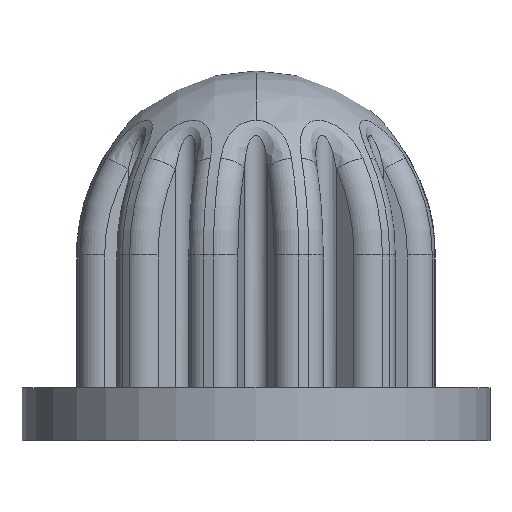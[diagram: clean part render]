
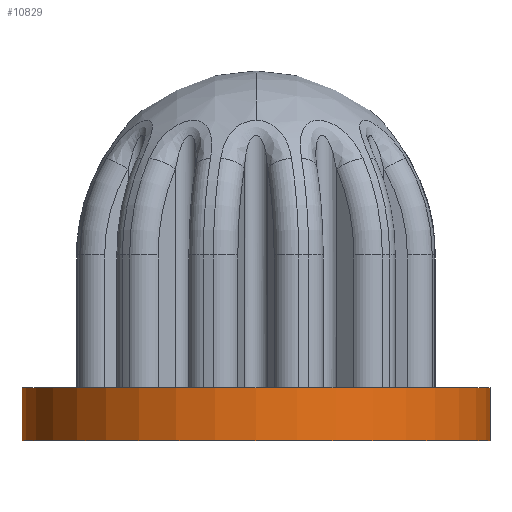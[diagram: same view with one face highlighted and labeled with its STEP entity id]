
A CAD part, front view. The second image highlights one B-rep face of the part: STEP entity #10829.
In plain terms, the highlighted cylindrical face has radius 2.908 mm (diameter 5.817 mm), a partial arc.
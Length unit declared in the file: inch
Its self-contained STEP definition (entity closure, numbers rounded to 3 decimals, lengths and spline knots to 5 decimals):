
#455 = VERTEX_POINT ( 'NONE', #9117 ) ;
#1379 = VERTEX_POINT ( 'NONE', #4073 ) ;
#1794 = ORIENTED_EDGE ( 'NONE', *, *, #12972, .T. ) ;
#2708 = CARTESIAN_POINT ( 'NONE',  ( 0., 0., 0. ) ) ;
#3165 = EDGE_CURVE ( 'NONE', #455, #9479, #3900, .T. ) ;
#3181 = ORIENTED_EDGE ( 'NONE', *, *, #4373, .T. ) ;
#3900 = LINE ( 'NONE', #15884, #8415 ) ;
#4073 = CARTESIAN_POINT ( 'NONE',  ( 0.1145, 0., -0.026 ) ) ;
#4373 = EDGE_CURVE ( 'NONE', #10943, #9479, #6072, .T. ) ;
#4853 = FACE_OUTER_BOUND ( 'NONE', #7456, .T. ) ;
#5136 = DIRECTION ( 'NONE',  ( 1., 0., 0. ) ) ;
#5288 = CIRCLE ( 'NONE', #14621, 0.1145 ) ;
#5527 = LINE ( 'NONE', #12409, #18383 ) ;
#5784 = CARTESIAN_POINT ( 'NONE',  ( 0.1145, 0., 0. ) ) ;
#6072 = CIRCLE ( 'NONE', #16626, 0.1145 ) ;
#6636 = CARTESIAN_POINT ( 'NONE',  ( 0., 0., -0.026 ) ) ;
#7231 = DIRECTION ( 'NONE',  ( 0., 0., -1. ) ) ;
#7456 = EDGE_LOOP ( 'NONE', ( #12364, #16860, #1794, #3181 ) ) ;
#7975 = DIRECTION ( 'NONE',  ( 0., 0., 1. ) ) ;
#8412 = EDGE_CURVE ( 'NONE', #1379, #455, #5288, .T. ) ;
#8415 = VECTOR ( 'NONE', #10198, 39.37008 ) ;
#9117 = CARTESIAN_POINT ( 'NONE',  ( -0.1145, 0., -0.026 ) ) ;
#9371 = CYLINDRICAL_SURFACE ( 'NONE', #11544, 0.1145 ) ;
#9479 = VERTEX_POINT ( 'NONE', #16772 ) ;
#10198 = DIRECTION ( 'NONE',  ( 0., 0., 1. ) ) ;
#10829 = ADVANCED_FACE ( 'NONE', ( #4853 ), #9371, .T. ) ;
#10943 = VERTEX_POINT ( 'NONE', #5784 ) ;
#11046 = DIRECTION ( 'NONE',  ( -1., 0., 0. ) ) ;
#11142 = DIRECTION ( 'NONE',  ( 0., 0., -1. ) ) ;
#11372 = DIRECTION ( 'NONE',  ( -1., 0., 0. ) ) ;
#11544 = AXIS2_PLACEMENT_3D ( 'NONE', #6636, #13887, #5136 ) ;
#12364 = ORIENTED_EDGE ( 'NONE', *, *, #3165, .F. ) ;
#12409 = CARTESIAN_POINT ( 'NONE',  ( 0.1145, 0., -0.026 ) ) ;
#12750 = CARTESIAN_POINT ( 'NONE',  ( 0., 0., -0.026 ) ) ;
#12972 = EDGE_CURVE ( 'NONE', #1379, #10943, #5527, .T. ) ;
#13887 = DIRECTION ( 'NONE',  ( 0., 0., 1. ) ) ;
#14621 = AXIS2_PLACEMENT_3D ( 'NONE', #12750, #11142, #11046 ) ;
#15884 = CARTESIAN_POINT ( 'NONE',  ( -0.1145, 0., -0.026 ) ) ;
#16626 = AXIS2_PLACEMENT_3D ( 'NONE', #2708, #7231, #11372 ) ;
#16772 = CARTESIAN_POINT ( 'NONE',  ( -0.1145, 0., 0. ) ) ;
#16860 = ORIENTED_EDGE ( 'NONE', *, *, #8412, .F. ) ;
#18383 = VECTOR ( 'NONE', #7975, 39.37008 ) ;
